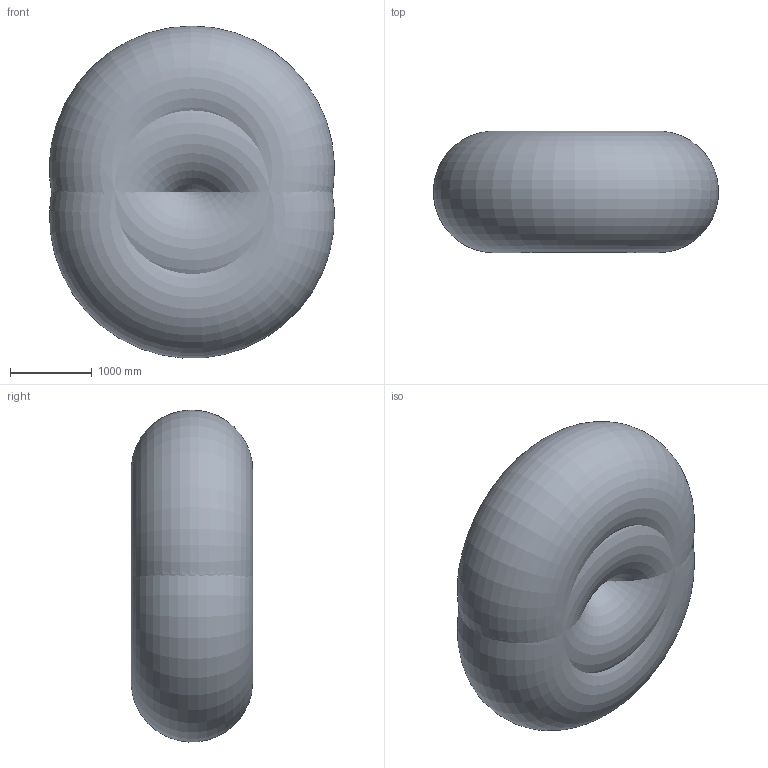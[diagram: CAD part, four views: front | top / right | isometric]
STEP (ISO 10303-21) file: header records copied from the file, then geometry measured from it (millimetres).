
FILE_DESCRIPTION((''),'2;1');
FILE_NAME('0-SHOW-367-467-QR2_ASM_3_ASM_4_ASM','2014-06-19T',('Test'),(''),'PRO/ENGINEER BY PARAMETRIC TECHNOLOGY CORPORATION, 2008400','PRO/ENGINEER BY PARAMETRIC TECHNOLOGY CORPORATION, 2008400','');
FILE_SCHEMA(('AUTOMOTIVE_DESIGN_CC2 { 1 2 10303 214 -1 1 5 2 }'));
Products named in the file (3): 2_ASM_2; 1_ASM_2; 0-SHOW-367-467-QR2_ASM_3_ASM_4_ASM
Assembly tree (2 placements, depth 2):
  0-SHOW-367-467-QR2_ASM_3_ASM_4_ASM
    2_ASM_2
    1_ASM_2
Bounding box: 3493.01 x 1489.35 x 4069.08 mm (x, y, z)
Surface area: 97563533.6 mm2 (no closed solid volume)
Topology: 0 solids, 0 shells, 1892 faces, 10634 edges, 10414 vertices
Faces by surface type: bspline 1604, torus 264, sphere 24
Entity records: 255181 total; most frequent: CARTESIAN_POINT 115068, DIRECTION 17090, TRIMMED_CURVE 13471, VECTOR 10438, LINE 10438, DEFINITIONAL_REPRESENTATION 10210, PCURVE 10210, COMPOSITE_CURVE_SEGMENT 10210
